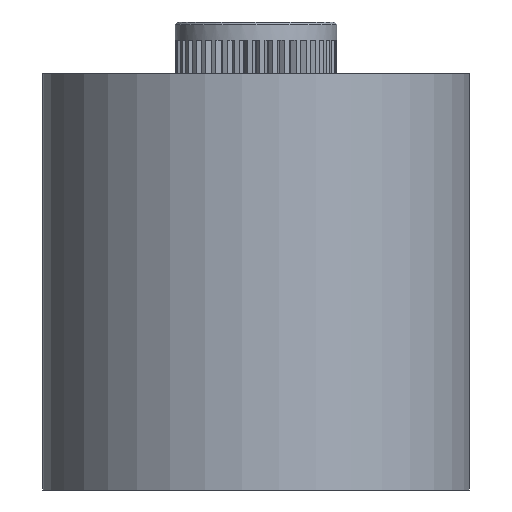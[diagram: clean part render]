
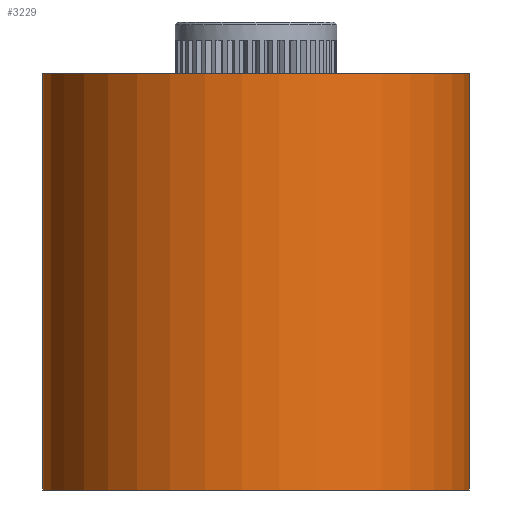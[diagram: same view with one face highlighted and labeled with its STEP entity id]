
A CAD part, front view. The second image highlights one B-rep face of the part: STEP entity #3229.
In plain terms, the highlighted cylindrical face has radius 10.5 mm (diameter 21 mm), a full revolution.
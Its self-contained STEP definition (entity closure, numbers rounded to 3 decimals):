
#2368=CARTESIAN_POINT('',(5.83,8.733,13.856));
#2369=VERTEX_POINT('',#2368);
#2370=CARTESIAN_POINT('',(0.,0.,13.856));
#2371=DIRECTION('',(0.,0.,1.0));
#2372=DIRECTION('',(-0.555,-0.832,0.));
#2373=AXIS2_PLACEMENT_3D('',#2370,#2371,#2372);
#2374=CIRCLE('',#2373,10.5);
#2375=EDGE_CURVE('',#2369,#2369,#2374,.T.);
#3210=CARTESIAN_POINT('',(0.,0.,-6.604));
#3211=DIRECTION('',(0.,0.,1.0));
#3212=DIRECTION('',(-0.555,-0.832,0.));
#3213=AXIS2_PLACEMENT_3D('',#3210,#3211,#3212);
#3214=CYLINDRICAL_SURFACE('',#3213,10.5);
#3215=ORIENTED_EDGE('',*,*,#2375,.F.);
#3216=EDGE_LOOP('',(#3215));
#3217=FACE_OUTER_BOUND('',#3216,.T.);
#3218=CARTESIAN_POINT('',(5.83,8.733,-6.604));
#3219=VERTEX_POINT('',#3218);
#3220=CARTESIAN_POINT('',(0.,0.,-6.604));
#3221=DIRECTION('',(0.,0.,-1.0));
#3222=DIRECTION('',(-0.555,-0.832,0.));
#3223=AXIS2_PLACEMENT_3D('',#3220,#3221,#3222);
#3224=CIRCLE('',#3223,10.5);
#3225=EDGE_CURVE('',#3219,#3219,#3224,.T.);
#3226=ORIENTED_EDGE('',*,*,#3225,.F.);
#3227=EDGE_LOOP('',(#3226));
#3228=FACE_BOUND('',#3227,.T.);
#3229=ADVANCED_FACE('',(#3217,#3228),#3214,.T.);
